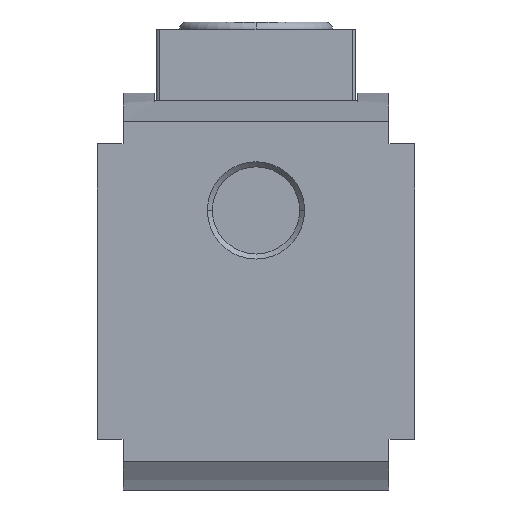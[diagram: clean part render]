
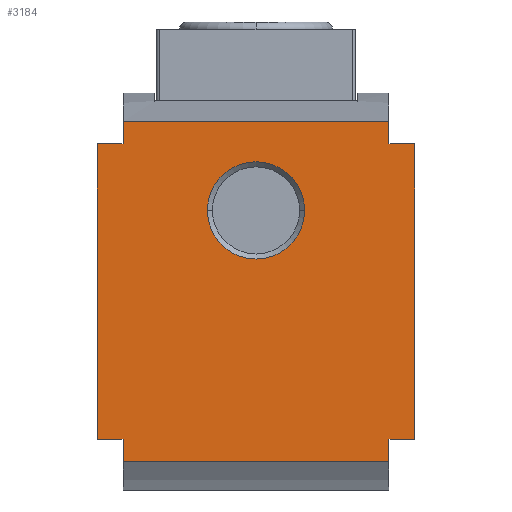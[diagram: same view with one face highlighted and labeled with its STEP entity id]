
A CAD part, front view. The second image highlights one B-rep face of the part: STEP entity #3184.
In plain terms, the highlighted planar face has unit normal (0, -1, 0).
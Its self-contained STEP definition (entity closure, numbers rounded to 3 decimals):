
#30=DIRECTION('',(0.,0.,-1.));
#31=VECTOR('',#30,3.);
#32=CARTESIAN_POINT('',(-18.,-25.,-20.));
#33=LINE('',#32,#31);
#64=DIRECTION('',(0.,0.,-1.));
#65=VECTOR('',#64,3.);
#66=CARTESIAN_POINT('',(-18.,-25.,23.));
#67=LINE('',#66,#65);
#125=DIRECTION('',(0.,0.,-1.));
#126=VECTOR('',#125,3.);
#127=CARTESIAN_POINT('',(18.,-25.,23.));
#128=LINE('',#127,#126);
#159=DIRECTION('',(0.,0.,-1.));
#160=VECTOR('',#159,3.);
#161=CARTESIAN_POINT('',(18.,-25.,-20.));
#162=LINE('',#161,#160);
#209=DIRECTION('',(1.,0.,0.));
#210=VECTOR('',#209,3.5);
#211=CARTESIAN_POINT('',(18.,-25.,-20.));
#212=LINE('',#211,#210);
#275=DIRECTION('',(1.,0.,0.));
#276=VECTOR('',#275,3.5);
#277=CARTESIAN_POINT('',(-21.5,-25.,-20.));
#278=LINE('',#277,#276);
#606=DIRECTION('',(1.,0.,0.));
#607=VECTOR('',#606,3.5);
#608=CARTESIAN_POINT('',(18.,-25.,20.));
#609=LINE('',#608,#607);
#646=DIRECTION('',(1.,0.,0.));
#647=VECTOR('',#646,3.5);
#648=CARTESIAN_POINT('',(-21.5,-25.,20.));
#649=LINE('',#648,#647);
#781=DIRECTION('',(0.,0.,1.));
#782=VECTOR('',#781,40.);
#783=CARTESIAN_POINT('',(21.5,-25.,-20.));
#784=LINE('',#783,#782);
#785=DIRECTION('',(0.,0.,1.));
#786=VECTOR('',#785,40.);
#787=CARTESIAN_POINT('',(-21.5,-25.,-20.));
#788=LINE('',#787,#786);
#789=DIRECTION('',(1.,0.,0.));
#790=VECTOR('',#789,36.);
#791=CARTESIAN_POINT('',(-18.,-25.,23.));
#792=LINE('',#791,#790);
#793=CARTESIAN_POINT('',(0.,-25.,11.));
#794=DIRECTION('',(0.,1.,0.));
#795=DIRECTION('',(-1.,0.,0.));
#796=AXIS2_PLACEMENT_3D('',#793,#794,#795);
#798=CARTESIAN_POINT('',(0.,-25.,11.));
#799=DIRECTION('',(0.,1.,0.));
#800=DIRECTION('',(1.,0.,0.));
#801=AXIS2_PLACEMENT_3D('',#798,#799,#800);
#807=DIRECTION('',(1.,0.,0.));
#808=VECTOR('',#807,36.);
#809=CARTESIAN_POINT('',(-18.,-25.,-23.));
#810=LINE('',#809,#808);
#1732=CARTESIAN_POINT('',(-18.,-25.,23.));
#1733=CARTESIAN_POINT('',(18.,-25.,23.));
#1734=VERTEX_POINT('',#1732);
#1735=VERTEX_POINT('',#1733);
#1736=CARTESIAN_POINT('',(-18.,-25.,-23.));
#1737=CARTESIAN_POINT('',(18.,-25.,-23.));
#1738=VERTEX_POINT('',#1736);
#1739=VERTEX_POINT('',#1737);
#1750=CARTESIAN_POINT('',(-21.5,-25.,-20.));
#1751=VERTEX_POINT('',#1750);
#1752=CARTESIAN_POINT('',(21.5,-25.,-20.));
#1754=VERTEX_POINT('',#1752);
#1774=CARTESIAN_POINT('',(-21.5,-25.,20.));
#1775=VERTEX_POINT('',#1774);
#1776=CARTESIAN_POINT('',(21.5,-25.,20.));
#1778=VERTEX_POINT('',#1776);
#1788=CARTESIAN_POINT('',(-18.,-25.,20.));
#1789=VERTEX_POINT('',#1788);
#1790=CARTESIAN_POINT('',(18.,-25.,20.));
#1791=VERTEX_POINT('',#1790);
#1792=CARTESIAN_POINT('',(-18.,-25.,-20.));
#1793=VERTEX_POINT('',#1792);
#1794=CARTESIAN_POINT('',(18.,-25.,-20.));
#1795=VERTEX_POINT('',#1794);
#2052=CARTESIAN_POINT('',(-6.579,-25.,11.));
#2053=CARTESIAN_POINT('',(6.579,-25.,11.));
#2054=VERTEX_POINT('',#2052);
#2055=VERTEX_POINT('',#2053);
#3156=CARTESIAN_POINT('',(-18.,-25.,23.));
#3157=DIRECTION('',(0.,-1.,0.));
#3158=DIRECTION('',(0.,0.,-1.));
#3159=AXIS2_PLACEMENT_3D('',#3156,#3157,#3158);
#3160=PLANE('',#3159);
#3161=ORIENTED_EDGE('',*,*,#2393,.T.);
#3162=ORIENTED_EDGE('',*,*,#2878,.T.);
#3163=ORIENTED_EDGE('',*,*,#3149,.F.);
#3164=ORIENTED_EDGE('',*,*,#2473,.F.);
#3165=ORIENTED_EDGE('',*,*,#2414,.T.);
#3167=ORIENTED_EDGE('',*,*,#3166,.F.);
#3168=ORIENTED_EDGE('',*,*,#2275,.F.);
#3169=ORIENTED_EDGE('',*,*,#2529,.F.);
#3171=ORIENTED_EDGE('',*,*,#3170,.T.);
#3172=ORIENTED_EDGE('',*,*,#2922,.T.);
#3173=ORIENTED_EDGE('',*,*,#2299,.F.);
#3175=ORIENTED_EDGE('',*,*,#3174,.T.);
#3176=EDGE_LOOP('',(#3161,#3162,#3163,#3164,#3165,#3167,#3168,#3169,#3171,#3172,
#3173,#3175));
#3177=FACE_OUTER_BOUND('',#3176,.F.);
#3179=ORIENTED_EDGE('',*,*,#3178,.F.);
#3181=ORIENTED_EDGE('',*,*,#3180,.F.);
#3182=EDGE_LOOP('',(#3179,#3181));
#3183=FACE_BOUND('',#3182,.F.);
#3184=ADVANCED_FACE('',(#3177,#3183),#3160,.T.);
#797=CIRCLE('',#796,6.579);
#802=CIRCLE('',#801,6.579);
#2275=EDGE_CURVE('',#1793,#1738,#33,.T.);
#2299=EDGE_CURVE('',#1734,#1789,#67,.T.);
#2393=EDGE_CURVE('',#1735,#1791,#128,.T.);
#2414=EDGE_CURVE('',#1795,#1739,#162,.T.);
#2473=EDGE_CURVE('',#1795,#1754,#212,.T.);
#2529=EDGE_CURVE('',#1751,#1793,#278,.T.);
#2878=EDGE_CURVE('',#1791,#1778,#609,.T.);
#2922=EDGE_CURVE('',#1775,#1789,#649,.T.);
#3149=EDGE_CURVE('',#1754,#1778,#784,.T.);
#3166=EDGE_CURVE('',#1738,#1739,#810,.T.);
#3170=EDGE_CURVE('',#1751,#1775,#788,.T.);
#3174=EDGE_CURVE('',#1734,#1735,#792,.T.);
#3178=EDGE_CURVE('',#2054,#2055,#797,.T.);
#3180=EDGE_CURVE('',#2055,#2054,#802,.T.);
